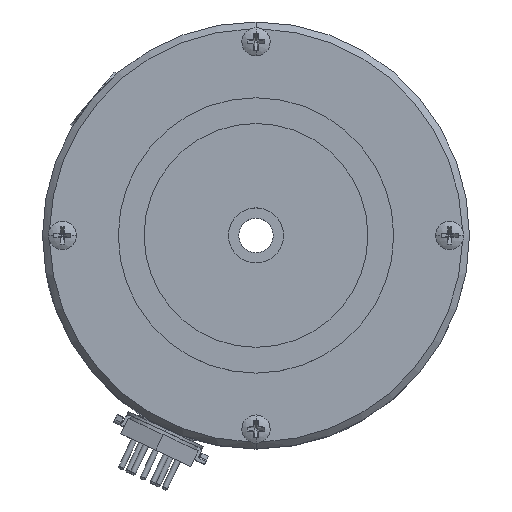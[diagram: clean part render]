
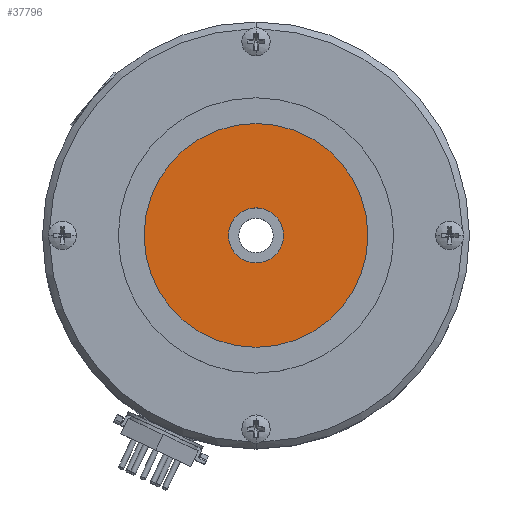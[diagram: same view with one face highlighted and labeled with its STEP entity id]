
A CAD part, top view. The second image highlights one B-rep face of the part: STEP entity #37796.
In plain terms, the highlighted planar face has unit normal (0, 0, 1).
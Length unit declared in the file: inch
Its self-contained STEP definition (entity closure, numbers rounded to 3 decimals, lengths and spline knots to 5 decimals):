
#9416 = FACE_OUTER_BOUND ( 'NONE', #27768, .T. ) ;
#9421 = FACE_BOUND ( 'NONE', #23877, .T. ) ;
#9431 = PLANE ( 'NONE',  #9452 ) ;
#9452 = AXIS2_PLACEMENT_3D ( 'NONE', #9620, #9619, #9618 ) ;
#9618 = DIRECTION ( 'NONE',  ( 0., -1., 0. ) ) ;
#9619 = DIRECTION ( 'NONE',  ( 0., 0., 1. ) ) ;
#9620 = CARTESIAN_POINT ( 'NONE',  ( -0.8125, 0., 0.54 ) ) ;
#10248 = CIRCLE ( 'NONE', #10380, 0.8125 ) ;
#10376 = DIRECTION ( 'NONE',  ( 0., 1., 0. ) ) ;
#10377 = DIRECTION ( 'NONE',  ( 0., 0., -1. ) ) ;
#10378 = CARTESIAN_POINT ( 'NONE',  ( 0., 0., 0.54 ) ) ;
#10380 = AXIS2_PLACEMENT_3D ( 'NONE', #10378, #10377, #10376 ) ;
#23409 = VERTEX_POINT ( 'NONE', #60893 ) ;
#23609 = EDGE_CURVE ( 'NONE', #23902, #23827, #60980, .T. ) ;
#23682 = VERTEX_POINT ( 'NONE', #61247 ) ;
#23827 = VERTEX_POINT ( 'NONE', #61200 ) ;
#23877 = EDGE_LOOP ( 'NONE', ( #37932, #24139 ) ) ;
#23902 = VERTEX_POINT ( 'NONE', #61278 ) ;
#24110 = EDGE_CURVE ( 'NONE', #23827, #23902, #61041, .T. ) ;
#24139 = ORIENTED_EDGE ( 'NONE', *, *, #23609, .T. ) ;
#24146 = EDGE_CURVE ( 'NONE', #23682, #23409, #61318, .T. ) ;
#27768 = EDGE_LOOP ( 'NONE', ( #37825, #37817 ) ) ;
#37796 = ADVANCED_FACE ( 'NONE', ( #9421, #9416 ), #9431, .T. ) ;
#37817 = ORIENTED_EDGE ( 'NONE', *, *, #37931, .F. ) ;
#37825 = ORIENTED_EDGE ( 'NONE', *, *, #24146, .F. ) ;
#37931 = EDGE_CURVE ( 'NONE', #23409, #23682, #10248, .T. ) ;
#37932 = ORIENTED_EDGE ( 'NONE', *, *, #24110, .T. ) ;
#60893 = CARTESIAN_POINT ( 'NONE',  ( 0., -0.8125, 0.54 ) ) ;
#60939 = DIRECTION ( 'NONE',  ( 0., 0., -1. ) ) ;
#60958 = AXIS2_PLACEMENT_3D ( 'NONE', #60965, #60939, #60985 ) ;
#60965 = CARTESIAN_POINT ( 'NONE',  ( 0., 0., 0.54 ) ) ;
#60980 = CIRCLE ( 'NONE', #60958, 0.2 ) ;
#60985 = DIRECTION ( 'NONE',  ( 0., 1., 0. ) ) ;
#60986 = CARTESIAN_POINT ( 'NONE',  ( 0., 0., 0.54 ) ) ;
#60987 = AXIS2_PLACEMENT_3D ( 'NONE', #60986, #61012, #61011 ) ;
#61011 = DIRECTION ( 'NONE',  ( 0., 1., 0. ) ) ;
#61012 = DIRECTION ( 'NONE',  ( 0., 0., -1. ) ) ;
#61041 = CIRCLE ( 'NONE', #60987, 0.2 ) ;
#61200 = CARTESIAN_POINT ( 'NONE',  ( 0., 0.2, 0.54 ) ) ;
#61247 = CARTESIAN_POINT ( 'NONE',  ( 0., 0.8125, 0.54 ) ) ;
#61278 = CARTESIAN_POINT ( 'NONE',  ( 0., -0.2, 0.54 ) ) ;
#61318 = CIRCLE ( 'NONE', #61401, 0.8125 ) ;
#61345 = CARTESIAN_POINT ( 'NONE',  ( 0., 0., 0.54 ) ) ;
#61399 = DIRECTION ( 'NONE',  ( 0., 1., 0. ) ) ;
#61400 = DIRECTION ( 'NONE',  ( 0., 0., -1. ) ) ;
#61401 = AXIS2_PLACEMENT_3D ( 'NONE', #61345, #61400, #61399 ) ;
